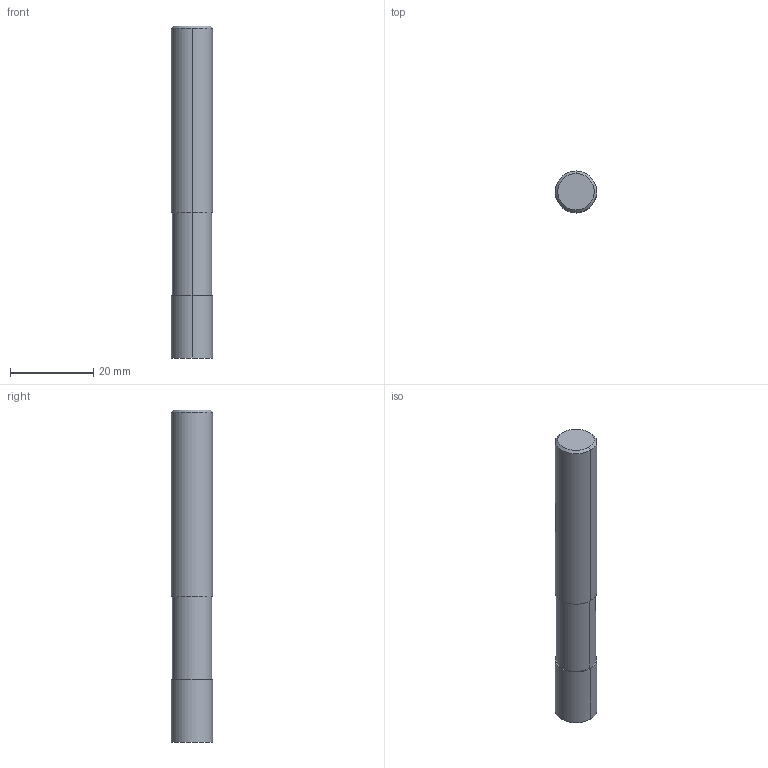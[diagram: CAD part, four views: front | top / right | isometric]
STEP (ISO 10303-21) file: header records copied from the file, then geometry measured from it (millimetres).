
FILE_DESCRIPTION((''),'2;1');
FILE_NAME('DIN4003_82_HEURO','2016-04-11T',('automc'),(''),'PRO/ENGINEER BY PARAMETRIC TECHNOLOGY CORPORATION, 2015280','PRO/ENGINEER BY PARAMETRIC TECHNOLOGY CORPORATION, 2015280','');
FILE_SCHEMA(('AUTOMOTIVE_DESIGN { 1 0 10303 214 1 1 1 1 }'));
Length unit declared in the file: millimetre
Products named in the file (1): DIN4003_82_HEURO
Bounding box: 10 x 10 x 80 mm (x, y, z)
Volume: 6124.6 mm3; surface area: 2642.8 mm2
Topology: 1 solids, 1 shells, 12 faces, 24 edges, 17 vertices
Faces by surface type: bspline 12
Entity records: 704 total; most frequent: CARTESIAN_POINT 219, DIRECTION 68, ORIENTED_EDGE 44, AXIS2_PLACEMENT_3D 26, PRESENTATION_STYLE_ASSIGNMENT 23, STYLED_ITEM 23, EDGE_CURVE 22, VECTOR 16
